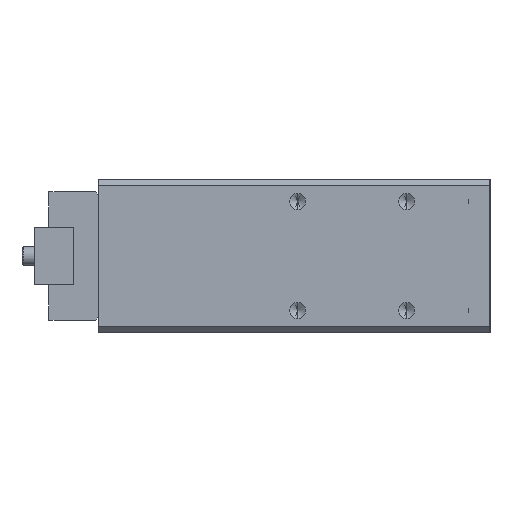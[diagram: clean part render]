
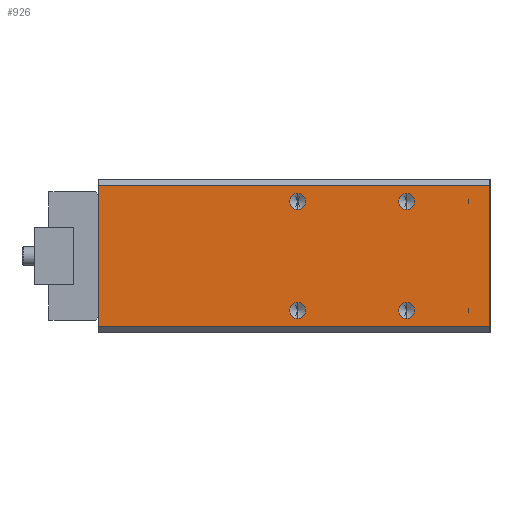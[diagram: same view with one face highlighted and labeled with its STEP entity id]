
A CAD part, left-side view. The second image highlights one B-rep face of the part: STEP entity #926.
In plain terms, the highlighted planar face has unit normal (-1, 0, 0).
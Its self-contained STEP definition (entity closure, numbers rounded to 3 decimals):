
#188 = VERTEX_POINT ( 'NONE', #2784 ) ;
#190 = EDGE_CURVE ( 'NONE', #207, #188, #2778, .T. ) ;
#193 = VERTEX_POINT ( 'NONE', #2773 ) ;
#197 = VERTEX_POINT ( 'NONE', #2768 ) ;
#200 = EDGE_CURVE ( 'NONE', #197, #193, #2828, .T. ) ;
#207 = VERTEX_POINT ( 'NONE', #2818 ) ;
#257 = VERTEX_POINT ( 'NONE', #3038 ) ;
#918 = ORIENTED_EDGE ( 'NONE', *, *, #919, .F. ) ;
#919 = EDGE_CURVE ( 'NONE', #920, #1000, #5143, .T. ) ;
#920 = VERTEX_POINT ( 'NONE', #5139 ) ;
#921 = ORIENTED_EDGE ( 'NONE', *, *, #976, .T. ) ;
#926 = ADVANCED_FACE ( 'NONE', ( #5128, #5127, #5126, #5125, #5124 ), #5170, .F. ) ;
#927 = EDGE_LOOP ( 'NONE', ( #928, #930 ) ) ;
#928 = ORIENTED_EDGE ( 'NONE', *, *, #929, .F. ) ;
#929 = EDGE_CURVE ( 'NONE', #11420, #8211, #5164, .T. ) ;
#930 = ORIENTED_EDGE ( 'NONE', *, *, #7784, .F. ) ;
#931 = EDGE_LOOP ( 'NONE', ( #932, #934 ) ) ;
#932 = ORIENTED_EDGE ( 'NONE', *, *, #933, .F. ) ;
#933 = EDGE_CURVE ( 'NONE', #188, #207, #5159, .T. ) ;
#934 = ORIENTED_EDGE ( 'NONE', *, *, #190, .F. ) ;
#935 = EDGE_LOOP ( 'NONE', ( #990, #992 ) ) ;
#976 = EDGE_CURVE ( 'NONE', #920, #996, #5296, .T. ) ;
#977 = EDGE_LOOP ( 'NONE', ( #978, #980 ) ) ;
#978 = ORIENTED_EDGE ( 'NONE', *, *, #979, .F. ) ;
#979 = EDGE_CURVE ( 'NONE', #257, #8995, #5291, .T. ) ;
#980 = ORIENTED_EDGE ( 'NONE', *, *, #8967, .F. ) ;
#990 = ORIENTED_EDGE ( 'NONE', *, *, #991, .F. ) ;
#991 = EDGE_CURVE ( 'NONE', #193, #197, #5313, .T. ) ;
#992 = ORIENTED_EDGE ( 'NONE', *, *, #200, .F. ) ;
#993 = EDGE_LOOP ( 'NONE', ( #994, #998, #918, #921 ) ) ;
#994 = ORIENTED_EDGE ( 'NONE', *, *, #995, .T. ) ;
#995 = EDGE_CURVE ( 'NONE', #996, #997, #5308, .T. ) ;
#996 = VERTEX_POINT ( 'NONE', #5304 ) ;
#997 = VERTEX_POINT ( 'NONE', #5368 ) ;
#998 = ORIENTED_EDGE ( 'NONE', *, *, #999, .T. ) ;
#999 = EDGE_CURVE ( 'NONE', #997, #1000, #5367, .T. ) ;
#1000 = VERTEX_POINT ( 'NONE', #5363 ) ;
#2768 = CARTESIAN_POINT ( 'NONE',  ( -17., 48., -9.75 ) ) ;
#2773 = CARTESIAN_POINT ( 'NONE',  ( -17., 48., -7.25 ) ) ;
#2774 = DIRECTION ( 'NONE',  ( 0., 0., 1. ) ) ;
#2775 = DIRECTION ( 'NONE',  ( -1., 0., 0. ) ) ;
#2776 = CARTESIAN_POINT ( 'NONE',  ( -17., 31., -8.5 ) ) ;
#2777 = AXIS2_PLACEMENT_3D ( 'NONE', #2776, #2775, #2774 ) ;
#2778 = CIRCLE ( 'NONE', #2777, 1.25 ) ;
#2784 = CARTESIAN_POINT ( 'NONE',  ( -17., 31., -7.25 ) ) ;
#2818 = CARTESIAN_POINT ( 'NONE',  ( -17., 31., -9.75 ) ) ;
#2824 = DIRECTION ( 'NONE',  ( 0., 0., 1. ) ) ;
#2825 = DIRECTION ( 'NONE',  ( -1., 0., 0. ) ) ;
#2826 = CARTESIAN_POINT ( 'NONE',  ( -17., 48., -8.5 ) ) ;
#2827 = AXIS2_PLACEMENT_3D ( 'NONE', #2826, #2825, #2824 ) ;
#2828 = CIRCLE ( 'NONE', #2827, 1.25 ) ;
#3038 = CARTESIAN_POINT ( 'NONE',  ( -17., 31., 9.75 ) ) ;
#5124 = FACE_BOUND ( 'NONE', #977, .T. ) ;
#5125 = FACE_OUTER_BOUND ( 'NONE', #993, .T. ) ;
#5126 = FACE_BOUND ( 'NONE', #935, .T. ) ;
#5127 = FACE_BOUND ( 'NONE', #931, .T. ) ;
#5128 = FACE_BOUND ( 'NONE', #927, .T. ) ;
#5139 = CARTESIAN_POINT ( 'NONE',  ( -17., 0., 11. ) ) ;
#5140 = DIRECTION ( 'NONE',  ( 0., 0., -1. ) ) ;
#5141 = VECTOR ( 'NONE', #5140, 1000. ) ;
#5142 = CARTESIAN_POINT ( 'NONE',  ( -17., 0., 12. ) ) ;
#5143 = LINE ( 'NONE', #5142, #5141 ) ;
#5155 = DIRECTION ( 'NONE',  ( 0., 0., 1. ) ) ;
#5156 = DIRECTION ( 'NONE',  ( -1., 0., 0. ) ) ;
#5157 = CARTESIAN_POINT ( 'NONE',  ( -17., 31., -8.5 ) ) ;
#5158 = AXIS2_PLACEMENT_3D ( 'NONE', #5157, #5156, #5155 ) ;
#5159 = CIRCLE ( 'NONE', #5158, 1.25 ) ;
#5160 = DIRECTION ( 'NONE',  ( 0., 0., 1. ) ) ;
#5161 = DIRECTION ( 'NONE',  ( -1., 0., 0. ) ) ;
#5162 = CARTESIAN_POINT ( 'NONE',  ( -17., 48., 8.5 ) ) ;
#5163 = AXIS2_PLACEMENT_3D ( 'NONE', #5162, #5161, #5160 ) ;
#5164 = CIRCLE ( 'NONE', #5163, 1.25 ) ;
#5165 = DIRECTION ( 'NONE',  ( 0., 0., -1. ) ) ;
#5166 = DIRECTION ( 'NONE',  ( 1., 0., 0. ) ) ;
#5167 = CARTESIAN_POINT ( 'NONE',  ( -17., 0., 12. ) ) ;
#5168 = AXIS2_PLACEMENT_3D ( 'NONE', #5167, #5166, #5165 ) ;
#5170 = PLANE ( 'NONE',  #5168 ) ;
#5287 = DIRECTION ( 'NONE',  ( 0., 0., 1. ) ) ;
#5288 = DIRECTION ( 'NONE',  ( -1., 0., 0. ) ) ;
#5289 = CARTESIAN_POINT ( 'NONE',  ( -17., 31., 8.5 ) ) ;
#5290 = AXIS2_PLACEMENT_3D ( 'NONE', #5289, #5288, #5287 ) ;
#5291 = CIRCLE ( 'NONE', #5290, 1.25 ) ;
#5293 = DIRECTION ( 'NONE',  ( 0., 1., 0. ) ) ;
#5294 = VECTOR ( 'NONE', #5293, 1000. ) ;
#5295 = CARTESIAN_POINT ( 'NONE',  ( -17., 61., 11. ) ) ;
#5296 = LINE ( 'NONE', #5295, #5294 ) ;
#5304 = CARTESIAN_POINT ( 'NONE',  ( -17., 61., 11. ) ) ;
#5305 = DIRECTION ( 'NONE',  ( 0., 0., -1. ) ) ;
#5306 = VECTOR ( 'NONE', #5305, 1000. ) ;
#5307 = CARTESIAN_POINT ( 'NONE',  ( -17., 61., 12. ) ) ;
#5308 = LINE ( 'NONE', #5307, #5306 ) ;
#5309 = DIRECTION ( 'NONE',  ( 0., 0., 1. ) ) ;
#5310 = DIRECTION ( 'NONE',  ( -1., 0., 0. ) ) ;
#5311 = CARTESIAN_POINT ( 'NONE',  ( -17., 48., -8.5 ) ) ;
#5312 = AXIS2_PLACEMENT_3D ( 'NONE', #5311, #5310, #5309 ) ;
#5313 = CIRCLE ( 'NONE', #5312, 1.25 ) ;
#5363 = CARTESIAN_POINT ( 'NONE',  ( -17., 0., -11. ) ) ;
#5364 = DIRECTION ( 'NONE',  ( 0., -1., 0. ) ) ;
#5365 = VECTOR ( 'NONE', #5364, 1000. ) ;
#5366 = CARTESIAN_POINT ( 'NONE',  ( -17., 0., -11. ) ) ;
#5367 = LINE ( 'NONE', #5366, #5365 ) ;
#5368 = CARTESIAN_POINT ( 'NONE',  ( -17., 61., -11. ) ) ;
#7784 = EDGE_CURVE ( 'NONE', #8211, #11420, #9686, .T. ) ;
#8211 = VERTEX_POINT ( 'NONE', #9754 ) ;
#8967 = EDGE_CURVE ( 'NONE', #8995, #257, #9882, .T. ) ;
#8995 = VERTEX_POINT ( 'NONE', #9877 ) ;
#9682 = DIRECTION ( 'NONE',  ( 0., 0., 1. ) ) ;
#9683 = DIRECTION ( 'NONE',  ( -1., 0., 0. ) ) ;
#9684 = CARTESIAN_POINT ( 'NONE',  ( -17., 48., 8.5 ) ) ;
#9685 = AXIS2_PLACEMENT_3D ( 'NONE', #9684, #9683, #9682 ) ;
#9686 = CIRCLE ( 'NONE', #9685, 1.25 ) ;
#9754 = CARTESIAN_POINT ( 'NONE',  ( -17., 48., 7.25 ) ) ;
#9877 = CARTESIAN_POINT ( 'NONE',  ( -17., 31., 7.25 ) ) ;
#9878 = DIRECTION ( 'NONE',  ( 0., 0., 1. ) ) ;
#9879 = DIRECTION ( 'NONE',  ( -1., 0., 0. ) ) ;
#9880 = CARTESIAN_POINT ( 'NONE',  ( -17., 31., 8.5 ) ) ;
#9881 = AXIS2_PLACEMENT_3D ( 'NONE', #9880, #9879, #9878 ) ;
#9882 = CIRCLE ( 'NONE', #9881, 1.25 ) ;
#10052 = CARTESIAN_POINT ( 'NONE',  ( -17., 48., 9.75 ) ) ;
#11420 = VERTEX_POINT ( 'NONE', #10052 ) ;
